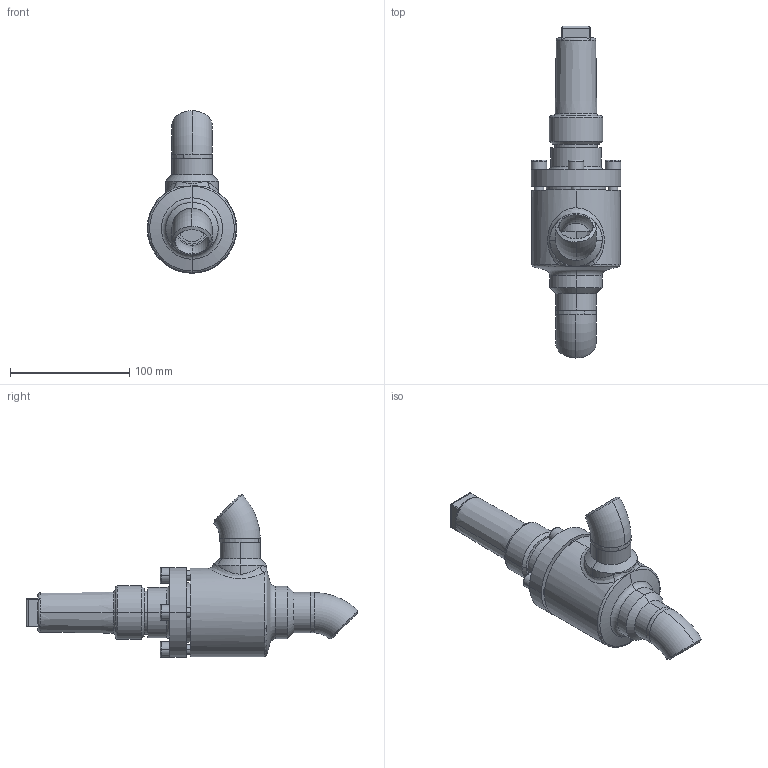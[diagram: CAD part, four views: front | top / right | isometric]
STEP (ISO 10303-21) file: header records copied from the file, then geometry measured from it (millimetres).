
FILE_DESCRIPTION (( 'STEP AP214' ), '1' );
FILE_NAME ('AVB16300D12-DN025_R1_PS40.STEP', '2006-04-27T12:16:09', ( 'Herr Grams' ), ( 'AWP GmbH' ), 'SwSTEP 2.0', 'SolidWorks 2002296', '' );
FILE_SCHEMA (( 'AUTOMOTIVE_DESIGN' ));
Length unit declared in the file: millimetre
Products named in the file (10): AVB16300D12-DN025_R1_PS40; Gehäuse-kpl16300-DN025_R1_Standard; Gehäuse16400-DN025_Standard; Rohrbogen 45°_R1-Fase_Rohrbogen-DN025-45°; bead16300-Geh-025-1_Standard; bead16300-Geh-025-2_Standard; Kappe16402_DN010-32_Standard; AVB16300E13_Deck+Schr-DN25-32_Standard; Deckel16300E13-DN25-32_Standard; Zylinderschraube-DIN912_M 8x 25
Assembly tree (13 placements, depth 3):
  AVB16300D12-DN025_R1_PS40
    Gehäuse-kpl16300-DN025_R1_Standard
      Gehäuse16400-DN025_Standard
      bead16300-Geh-025-2_Standard
      Rohrbogen 45°_R1-Fase_Rohrbogen-DN025-45°  x2
      bead16300-Geh-025-1_Standard
    AVB16300E13_Deck+Schr-DN25-32_Standard
      Deckel16300E13-DN25-32_Standard
      Zylinderschraube-DIN912_M 8x 25  x4
    Kappe16402_DN010-32_Standard
Bounding box: 75 x 278.28 x 136.28 mm (x, y, z)
Volume: 392374.1 mm3; surface area: 106253.7 mm2
Topology: 11 solids, 11 shells, 254 faces, 569 edges, 358 vertices
Faces by surface type: cylinder 87, plane 78, cone 47, torus 31, bspline 11
Entity records: 31283 total; most frequent: CARTESIAN_POINT 26244, DIRECTION 937, ORIENTED_EDGE 866, EDGE_CURVE 433, AXIS2_PLACEMENT_3D 398, VERTEX_POINT 272, EDGE_LOOP 223, CIRCLE 201
